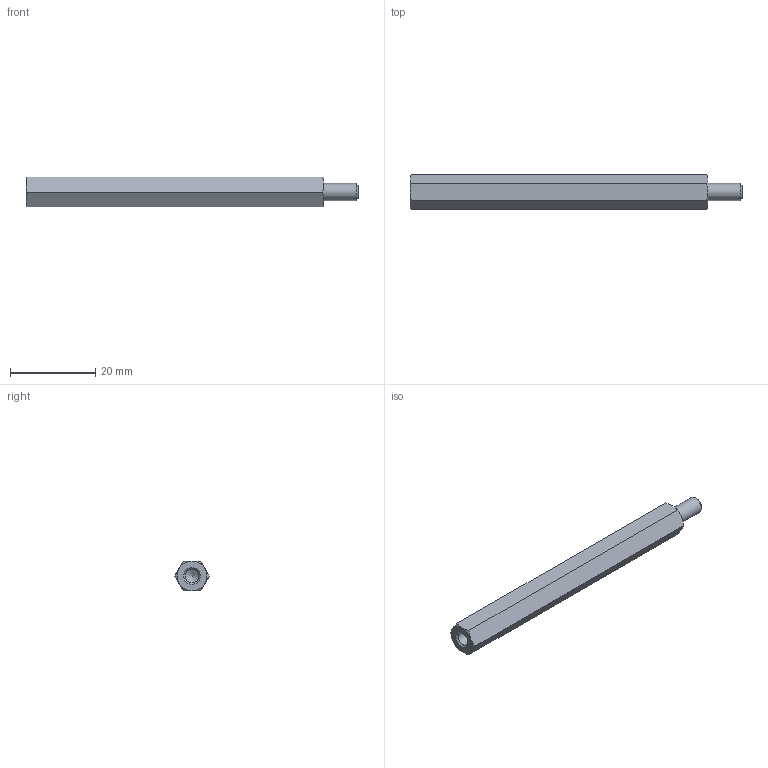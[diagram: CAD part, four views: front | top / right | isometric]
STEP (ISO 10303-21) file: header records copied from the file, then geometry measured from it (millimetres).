
FILE_DESCRIPTION( ( 'STEP AP203' ), '1' );
FILE_NAME( 'C:/Temp/Ganter_Step_05_03_2020/data/3_2/gn6220/gn6220_st/Spacer GN 6220-ST-M4-70-B.stp', '2020-03-13T05:42:41', ( 'License CC BY-ND 4.0' ), ( 'CADENAS' ), ' ', 'PARTsolutions', ' ' );
FILE_SCHEMA( ( 'CONFIG_CONTROL_DESIGN' ) );
Length unit declared in the file: millimetre
Products named in the file (1): _Spacer GN 6220-ST-M4-70-B
Bounding box: 78 x 8.08 x 7 mm (x, y, z)
Volume: 2951.8 mm3; surface area: 2015.3 mm2
Topology: 1 solids, 1 shells, 26 faces, 55 edges, 32 vertices
Faces by surface type: cone 15, plane 9, cylinder 2
Full cylindrical faces by diameter (mm): 3.242 x1, 4 x1
Entity records: 746 total; most frequent: CARTESIAN_POINT 210, DIRECTION 96, ORIENTED_EDGE 96, EDGE_CURVE 48, AXIS2_PLACEMENT_3D 45, EDGE_LOOP 32, VERTEX_POINT 31, FACE_OUTER_BOUND 28
